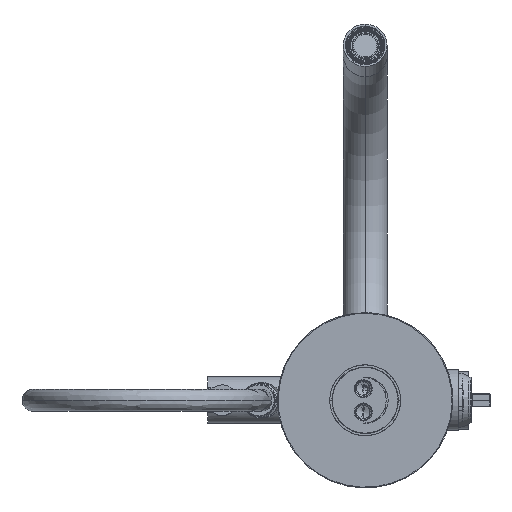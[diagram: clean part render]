
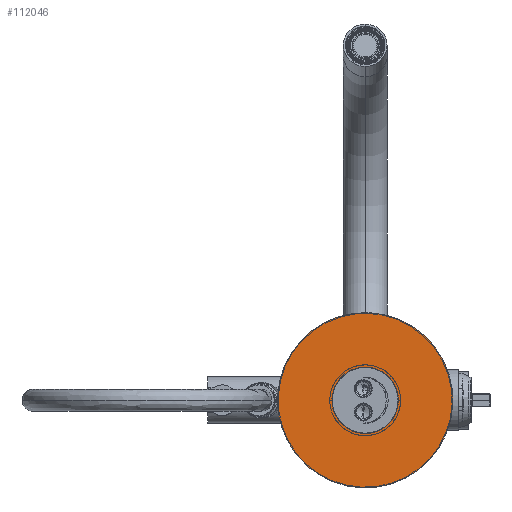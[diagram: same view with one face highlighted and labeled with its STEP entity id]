
A CAD part, front view. The second image highlights one B-rep face of the part: STEP entity #112046.
In plain terms, the highlighted planar face has unit normal (0, -1, 0).
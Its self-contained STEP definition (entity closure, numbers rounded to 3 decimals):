
#111750=CARTESIAN_POINT('',(0.,-692.5,0.));
#111751=DIRECTION('',(0.,1.,0.));
#111752=DIRECTION('',(0.954,0.,0.301));
#111753=AXIS2_PLACEMENT_3D('',#111750,#111751,#111752);
#111755=CARTESIAN_POINT('',(0.,-692.5,0.));
#111756=DIRECTION('',(0.,1.,0.));
#111757=DIRECTION('',(-0.954,0.,-0.301));
#111758=AXIS2_PLACEMENT_3D('',#111755,#111756,#111757);
#111760=CARTESIAN_POINT('',(0.,-692.5,0.));
#111761=DIRECTION('',(0.,-1.,0.));
#111762=DIRECTION('',(0.954,0.,0.301));
#111763=AXIS2_PLACEMENT_3D('',#111760,#111761,#111762);
#111765=CARTESIAN_POINT('',(0.,-692.5,0.));
#111766=DIRECTION('',(0.,-1.,0.));
#111767=DIRECTION('',(-0.954,0.,-0.301));
#111768=AXIS2_PLACEMENT_3D('',#111765,#111766,#111767);
#111851=CARTESIAN_POINT('',(21.698,-692.5,6.839));
#111852=CARTESIAN_POINT('',(-21.698,-692.5,-6.839));
#111853=VERTEX_POINT('',#111851);
#111854=VERTEX_POINT('',#111852);
#111855=CARTESIAN_POINT('',(57.224,-692.5,18.038));
#111856=CARTESIAN_POINT('',(-57.224,-692.5,-18.038));
#111857=VERTEX_POINT('',#111855);
#111858=VERTEX_POINT('',#111856);
#112031=CARTESIAN_POINT('',(0.,-692.5,0.));
#112032=DIRECTION('',(0.,1.,0.));
#112033=DIRECTION('',(0.954,0.,0.301));
#112034=AXIS2_PLACEMENT_3D('',#112031,#112032,#112033);
#112035=PLANE('',#112034);
#112037=ORIENTED_EDGE('',*,*,#112036,.T.);
#112039=ORIENTED_EDGE('',*,*,#112038,.T.);
#112040=EDGE_LOOP('',(#112037,#112039));
#112041=FACE_OUTER_BOUND('',#112040,.F.);
#112042=ORIENTED_EDGE('',*,*,#112011,.T.);
#112043=ORIENTED_EDGE('',*,*,#112025,.T.);
#112044=EDGE_LOOP('',(#112042,#112043));
#112045=FACE_BOUND('',#112044,.F.);
#112046=ADVANCED_FACE('',(#112041,#112045),#112035,.F.);
#111754=CIRCLE('',#111753,60.);
#111759=CIRCLE('',#111758,60.);
#111764=CIRCLE('',#111763,22.75);
#111769=CIRCLE('',#111768,22.75);
#112011=EDGE_CURVE('',#111853,#111854,#111764,.T.);
#112025=EDGE_CURVE('',#111854,#111853,#111769,.T.);
#112036=EDGE_CURVE('',#111857,#111858,#111754,.T.);
#112038=EDGE_CURVE('',#111858,#111857,#111759,.T.);
